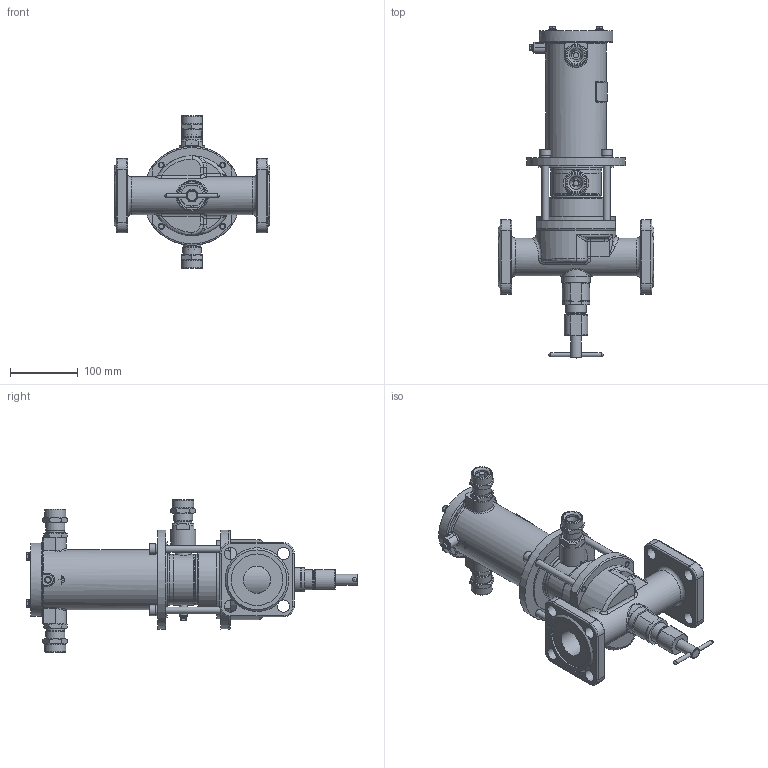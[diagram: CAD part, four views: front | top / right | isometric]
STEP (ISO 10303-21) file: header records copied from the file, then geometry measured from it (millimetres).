
FILE_DESCRIPTION(('STEP AP203'), '1');
FILE_NAME('ÑÅÍÑ-ÏÐ DN40PN25-ÄÏ1.stp', '2018-10-09T08:06:38', ('Îðëîâ Å.Â.'), ('ÎÎÎ ÍÏÏ Ñåíñîð'), 'ASCON STEP Converter 1.3', 'Kompas 3D', '');
FILE_SCHEMA(('CONFIG_CONTROL_DESIGN','SUPPORT_RESOURCE_SCHEMA'));
Length unit declared in the file: millimetre
Products named in the file (1): 52
Bounding box: 230 x 489.86 x 225 mm (x, y, z)
Volume: 1869877.1 mm3; surface area: 493506.8 mm2
Topology: 2 solids, 26 shells, 2172 faces, 5658 edges, 3652 vertices
Faces by surface type: cylinder 1083, plane 808, cone 160, torus 54, bspline 47, extrusion 16, sphere 4
Full cylindrical faces by diameter (mm): 2.459 x1, 3.5 x2, 4.134 x6, 4.917 x4, 5 x2, 5.3 x1, 6 x10, 6.5 x4, 8 x10, 8.2 x1, 8.376 x4, 8.5 x1, 10 x6, 11 x5, 12 x6, 13 x4, 16 x6, 16.004 x2, 17 x1, 17.5 x1, 18 x9, 20 x6, 22 x2, 22.376 x2, 23 x2, 23.5 x3, 24 x3, 24.5 x2, 25 x2, 26 x6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
Entity records: 84386 total; most frequent: CARTESIAN_POINT 29913, DIRECTION 11811, ORIENTED_EDGE 11256, EDGE_CURVE 5628, AXIS2_PLACEMENT_3D 4566, VERTEX_POINT 3652, VECTOR 2679, LINE 2663
